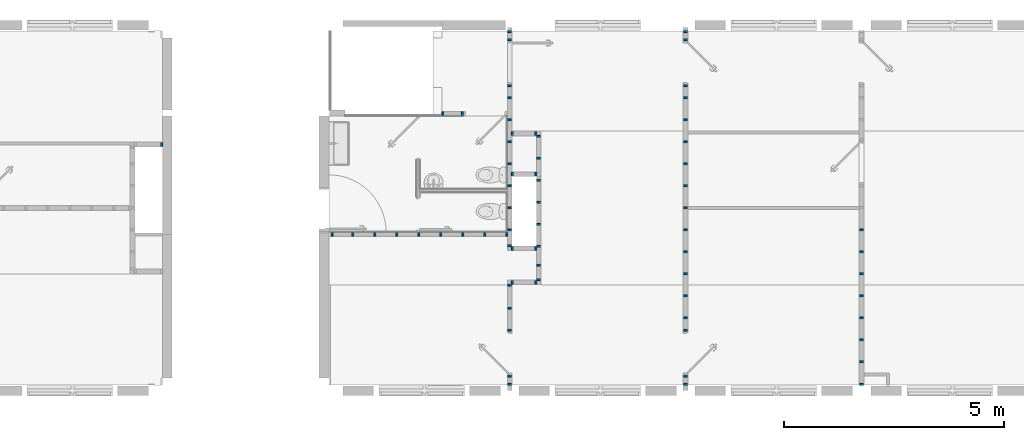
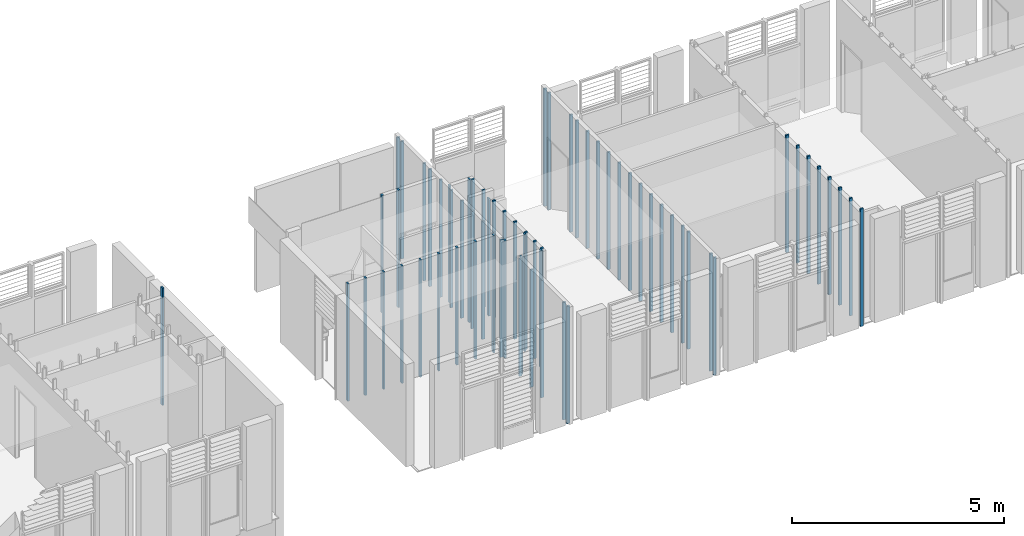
# One storey, part 2 of 20: 69 columns.
"""IFC2X3 building model written with IfcOpenShell, lengths in metres."""

from ifc_helpers import new_model, entity, si_unit, converted_unit, derived_unit, direction, frame, origin, origin_2d_with_axis, place, context, subcontext, project, spatial, rectangle, extrude, source, transform, mapped, material, type_object, type_shapes, element, save


model = new_model("IFC2X3")

# Units and contexts
model_context = context("Model", 3, precision=1e-05, world=origin(), true_north=direction((6.12303176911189e-17, 1.0)))
body_context = subcontext(model_context, "Body", "Model", "MODEL_VIEW")
ifc_project = project(units=[si_unit("LENGTHUNIT", "METRE"), si_unit("AREAUNIT", "SQUARE_METRE"), si_unit("VOLUMEUNIT", "CUBIC_METRE"), converted_unit("PLANEANGLEUNIT", "DEGREE", entity("IfcRatioMeasure", 0.0174532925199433), si_unit("PLANEANGLEUNIT", "RADIAN"), dimensions=[0, 0, 0, 0, 0, 0, 0]), si_unit("MASSUNIT", "GRAM", prefix="KILO"), derived_unit("MASSDENSITYUNIT", [(si_unit("MASSUNIT", "GRAM", prefix="KILO"), 1), (si_unit("LENGTHUNIT", "METRE"), -3)]), si_unit("TIMEUNIT", "SECOND"), si_unit("FREQUENCYUNIT", "HERTZ"), si_unit("THERMODYNAMICTEMPERATUREUNIT", "DEGREE_CELSIUS"), derived_unit("THERMALTRANSMITTANCEUNIT", [(si_unit("MASSUNIT", "GRAM", prefix="KILO"), 1), (si_unit("THERMODYNAMICTEMPERATUREUNIT", "KELVIN"), -1), (si_unit("TIMEUNIT", "SECOND"), -3)]), derived_unit("VOLUMETRICFLOWRATEUNIT", [(si_unit("LENGTHUNIT", "METRE"), 3), (si_unit("TIMEUNIT", "SECOND"), -1)]), si_unit("ELECTRICCURRENTUNIT", "AMPERE"), si_unit("ELECTRICVOLTAGEUNIT", "VOLT"), si_unit("POWERUNIT", "WATT"), si_unit("FORCEUNIT", "NEWTON", prefix="KILO"), si_unit("ILLUMINANCEUNIT", "LUX"), si_unit("LUMINOUSFLUXUNIT", "LUMEN"), si_unit("LUMINOUSINTENSITYUNIT", "CANDELA"), derived_unit("USERDEFINED", [(si_unit("MASSUNIT", "GRAM", prefix="KILO"), -1), (si_unit("LENGTHUNIT", "METRE"), -2), (si_unit("TIMEUNIT", "SECOND"), 3), (si_unit("LUMINOUSFLUXUNIT", "LUMEN"), 1)]), derived_unit("LINEARVELOCITYUNIT", [(si_unit("LENGTHUNIT", "METRE"), 1), (si_unit("TIMEUNIT", "SECOND"), -1)]), si_unit("PRESSUREUNIT", "PASCAL"), derived_unit("USERDEFINED", [(si_unit("LENGTHUNIT", "METRE"), -2), (si_unit("MASSUNIT", "GRAM", prefix="KILO"), 1), (si_unit("TIMEUNIT", "SECOND"), -2)])], contexts=[model_context])

# Site, building, storey
site_placement = place(None, origin())
site = spatial("IfcSite", under=ifc_project, at=site_placement, Name="Surface", CompositionType="ELEMENT")
building_placement = place(site_placement, origin())
building = spatial("IfcBuilding", under=site, at=building_placement, Name="ExPREF", CompositionType="ELEMENT")
storey_placement = place(building_placement, frame((0.0, 0.0, 4.27)))
storey = spatial("IfcBuildingStorey", under=building, at=storey_placement, Name="R+1", CompositionType="ELEMENT", Elevation=4.27)

# Columns
ifc_material_1 = material(Name="AA-bois poutres")
column_type_1 = type_object("IfcColumnType", Name="HEA160", PredefinedType="COLUMN")
shared_shape_1 = source(origin(), body_context, "Body", "SweptSolid", [
    extrude(rectangle(XDim=0.08, YDim=0.0449999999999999, at=origin_2d_with_axis()), frame((0.0, 0.0, 4.215), z_axis=(0.0, 0.0, 1.0), x_axis=(0.0, -1.0, 0.0)), (0.0, 0.0, 1.0), 3.385),
])
type_shapes(column_type_1, [shared_shape_1])
column_1_placement = place(storey_placement, frame((41.5772436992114, -187.766069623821, -4.27)))
element("IfcColumn", 1, at=column_1_placement, inside=storey, type_object=column_type_1, material=ifc_material_1, Name="poteau bois 8x4.5 cm:HEA160", ObjectType="HEA160", context=body_context, shape_type="MappedRepresentation", body=[
    mapped(shared_shape_1, transform((0.0, 0.0, 0.0), scale=1.0)),
])
ifc_material_2 = material(Name="AA-bois tasseau cloison")
column_type_2 = type_object("IfcColumnType", Name="HEA160", PredefinedType="COLUMN")
shared_shape_2 = source(origin(), body_context, "Body", "SweptSolid", [
    extrude(rectangle(XDim=0.08, YDim=0.0449999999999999, at=origin_2d_with_axis()), frame((0.0, 0.0, 4.215), z_axis=(0.0, 0.0, 1.0), x_axis=(0.0, -1.0, 0.0)), (0.0, 0.0, 1.0), 3.385),
])
type_shapes(column_type_2, [shared_shape_2])
for number, where, z_axis, x_axis, name in (
    (2, (49.4897436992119, -189.20806962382, -4.27), (0.0, 0.0, 1.0), (0.0, -1.0, 0.0), "poteau bois 8x4.5 cm:HEA160"),
    (3, (49.4897436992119, -188.70806962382, -4.27), (0.0, 0.0, 1.0), (0.0, -1.0, 0.0), "poteau bois 8x4.5 cm:HEA160"),
    (4, (49.4897436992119, -188.20806962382, -4.27), (0.0, 0.0, 1.0), (0.0, -1.0, 0.0), "poteau bois 8x4.5 cm:HEA160"),
    (5, (49.4897436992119, -187.70806962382, -4.27), (0.0, 0.0, 1.0), (0.0, -1.0, 0.0), "poteau bois 8x4.5 cm:HEA160"),
    (6, (49.4897436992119, -187.20806962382, -4.27), (0.0, 0.0, 1.0), (0.0, -1.0, 0.0), "poteau bois 8x4.5 cm:HEA160"),
    (7, (49.4897436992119, -186.70806962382, -4.27), (0.0, 0.0, 1.0), (0.0, -1.0, 0.0), "poteau bois 8x4.5 cm:HEA160"),
    (8, (49.4897436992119, -185.19898794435, -4.27), (0.0, 0.0, 1.0), (0.0, -1.0, 0.0), "poteau bois 8x4.5 cm:HEA160"),
    (9, (49.4897436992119, -186.428987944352, -4.27), (0.0, 0.0, 1.0), (0.0, -1.0, 0.0), "poteau bois 8x4.5 cm:HEA160"),
    (10, (49.4897436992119, -185.383987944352, -4.27), (0.0, 0.0, 1.0), (0.0, -1.0, 0.0), "poteau bois 8x4.5 cm:HEA160"),
    (11, (53.4897436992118, -189.20806962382, -4.27), (0.0, 0.0, 1.0), (0.0, -1.0, 0.0), "poteau bois 8x4.5 cm:HEA160"),
    (12, (53.4897436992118, -188.70806962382, -4.27), (0.0, 0.0, 1.0), (0.0, -1.0, 0.0), "poteau bois 8x4.5 cm:HEA160"),
    (13, (53.4897436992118, -188.20806962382, -4.27), (0.0, 0.0, 1.0), (0.0, -1.0, 0.0), "poteau bois 8x4.5 cm:HEA160"),
    (14, (53.4897436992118, -187.70806962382, -4.27), (0.0, 0.0, 1.0), (0.0, -1.0, 0.0), "poteau bois 8x4.5 cm:HEA160"),
    (15, (53.4897436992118, -187.20806962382, -4.27), (0.0, 0.0, 1.0), (0.0, -1.0, 0.0), "poteau bois 8x4.5 cm:HEA160"),
    (16, (53.4897436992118, -186.70806962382, -4.27), (0.0, 0.0, 1.0), (0.0, -1.0, 0.0), "poteau bois 8x4.5 cm:HEA160"),
    (17, (53.4897436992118, -185.19898794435, -4.27), (0.0, 0.0, 1.0), (0.0, -1.0, 0.0), "poteau bois 8x4.5 cm:HEA160"),
    (18, (53.4897436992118, -186.428987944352, -4.27), (0.0, 0.0, 1.0), (0.0, -1.0, 0.0), "poteau bois 8x4.5 cm:HEA160"),
    (19, (53.4897436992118, -185.383987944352, -4.27), (0.0, 0.0, 1.0), (0.0, -1.0, 0.0), "poteau bois 8x4.5 cm:HEA160"),
):
    element("IfcColumn", number, at=place(storey_placement, frame(where, z_axis=z_axis, x_axis=x_axis)), inside=storey, type_object=column_type_2, material=ifc_material_2, Name=name, ObjectType="HEA160", context=body_context, shape_type="MappedRepresentation", body=[
        mapped(shared_shape_2, transform((0.0, 0.0, 0.0), scale=1.0)),
    ])
column_type_3 = type_object("IfcColumnType", Name="HEA160", PredefinedType="COLUMN")
shared_shape_3 = source(origin(), body_context, "Body", "SweptSolid", [
    extrude(rectangle(XDim=0.08, YDim=0.0449999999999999, at=origin_2d_with_axis()), frame((0.0, 0.0, 4.215), z_axis=(0.0, 0.0, 1.0), x_axis=(0.0, -1.0, 0.0)), (0.0, 0.0, 1.0), 3.385),
])
type_shapes(column_type_3, [shared_shape_3])
column_2_placement = place(storey_placement, frame((49.4897436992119, -189.708069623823, -4.27), z_axis=(0.0, 0.0, 1.0), x_axis=(0.0, 1.0, 0.0)))
element("IfcColumn", 20, at=column_2_placement, inside=storey, type_object=column_type_3, material=ifc_material_2, Name="poteau bois 8x4.5 cm:HEA160", ObjectType="HEA160", context=body_context, shape_type="MappedRepresentation", body=[
    mapped(shared_shape_3, transform((0.0, 0.0, 0.0), scale=1.0)),
])
for number, where, name in (
    (21, (47.9722436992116, -187.066488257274, -4.27), "poteau bois 8x4.5 cm:HEA160"),
    (22, (48.4147436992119, -187.066488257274, -4.27), "poteau bois 8x4.5 cm:HEA160"),
):
    element("IfcColumn", number, at=place(storey_placement, frame(where)), inside=storey, type_object=column_type_3, material=ifc_material_2, Name=name, ObjectType="HEA160", context=body_context, shape_type="MappedRepresentation", body=[
        mapped(shared_shape_3, transform((0.0, 0.0, 0.0), scale=1.0)),
    ])
for number, where, z_axis, x_axis, name in (
    (23, (53.4897436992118, -193.217151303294, -4.27), (0.0, 0.0, 1.0), (0.0, 1.0, 0.0), "poteau bois 8x4.5 cm:HEA160"),
    (24, (53.4897436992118, -189.708069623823, -4.27), (0.0, 0.0, 1.0), (0.0, 1.0, 0.0), "poteau bois 8x4.5 cm:HEA160"),
    (25, (53.4897436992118, -190.208069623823, -4.27), (0.0, 0.0, 1.0), (0.0, 1.0, 0.0), "poteau bois 8x4.5 cm:HEA160"),
    (26, (53.4897436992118, -190.708069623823, -4.27), (0.0, 0.0, 1.0), (0.0, 1.0, 0.0), "poteau bois 8x4.5 cm:HEA160"),
    (27, (53.4897436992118, -191.208069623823, -4.27), (0.0, 0.0, 1.0), (0.0, 1.0, 0.0), "poteau bois 8x4.5 cm:HEA160"),
    (28, (53.4897436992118, -191.708069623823, -4.27), (0.0, 0.0, 1.0), (0.0, 1.0, 0.0), "poteau bois 8x4.5 cm:HEA160"),
    (29, (53.4897436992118, -191.987151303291, -4.27), (0.0, 0.0, 1.0), (0.0, 1.0, 0.0), "poteau bois 8x4.5 cm:HEA160"),
    (30, (53.4897436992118, -193.032151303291, -4.27), (0.0, 0.0, 1.0), (0.0, 1.0, 0.0), "poteau bois 8x4.5 cm:HEA160"),
):
    element("IfcColumn", number, at=place(storey_placement, frame(where, z_axis=z_axis, x_axis=x_axis)), inside=storey, type_object=column_type_3, material=ifc_material_2, Name=name, ObjectType="HEA160", context=body_context, shape_type="MappedRepresentation", body=[
        mapped(shared_shape_3, transform((0.0, 0.0, 0.0), scale=1.0)),
    ])
for number, where, name in (
    (31, (50.0872436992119, -190.900069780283, -4.27), "poteau bois 8x4.5 cm:HEA160"),
    (32, (50.0872436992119, -187.516069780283, -4.27), "poteau bois 8x4.5 cm:HEA160"),
    (33, (49.5522436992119, -187.516069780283, -4.27), "poteau bois 8x4.5 cm:HEA160"),
):
    element("IfcColumn", number, at=place(storey_placement, frame(where)), inside=storey, type_object=column_type_3, material=ifc_material_2, Name=name, ObjectType="HEA160", context=body_context, shape_type="MappedRepresentation", body=[
        mapped(shared_shape_3, transform((0.0, 0.0, 0.0), scale=1.0)),
    ])
for number, where, z_axis, x_axis, name in (
    (34, (50.1497436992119, -187.580569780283, -4.27), (0.0, 0.0, 1.0), (0.0, -1.0, 0.0), "poteau bois 8x4.5 cm:HEA160"),
    (35, (50.1497436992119, -188.080569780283, -4.27), (0.0, 0.0, 1.0), (0.0, -1.0, 0.0), "poteau bois 8x4.5 cm:HEA160"),
    (36, (50.1497436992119, -188.580569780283, -4.27), (0.0, 0.0, 1.0), (0.0, -1.0, 0.0), "poteau bois 8x4.5 cm:HEA160"),
    (37, (50.1497436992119, -189.080569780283, -4.27), (0.0, 0.0, 1.0), (0.0, -1.0, 0.0), "poteau bois 8x4.5 cm:HEA160"),
    (38, (50.1497436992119, -189.580569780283, -4.27), (0.0, 0.0, 1.0), (0.0, -1.0, 0.0), "poteau bois 8x4.5 cm:HEA160"),
    (39, (50.1497436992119, -190.080569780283, -4.27), (0.0, 0.0, 1.0), (0.0, -1.0, 0.0), "poteau bois 8x4.5 cm:HEA160"),
    (40, (50.1497436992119, -190.50556962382, -4.27), (0.0, 0.0, 1.0), (0.0, -1.0, 0.0), "poteau bois 8x4.5 cm:HEA160"),
):
    element("IfcColumn", number, at=place(storey_placement, frame(where, z_axis=z_axis, x_axis=x_axis)), inside=storey, type_object=column_type_3, material=ifc_material_2, Name=name, ObjectType="HEA160", context=body_context, shape_type="MappedRepresentation", body=[
        mapped(shared_shape_3, transform((0.0, 0.0, 0.0), scale=1.0)),
    ])
for number, where, name in (
    (41, (50.0872436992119, -188.438069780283, -4.27), "poteau bois 8x4.5 cm:HEA160"),
    (42, (49.5522436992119, -188.438069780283, -4.27), "poteau bois 8x4.5 cm:HEA160"),
    (43, (49.5522436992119, -190.128069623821, -4.27), "poteau bois 8x4.5 cm:HEA160"),
):
    element("IfcColumn", number, at=place(storey_placement, frame(where)), inside=storey, type_object=column_type_3, material=ifc_material_2, Name=name, ObjectType="HEA160", context=body_context, shape_type="MappedRepresentation", body=[
        mapped(shared_shape_3, transform((0.0, 0.0, 0.0), scale=1.0)),
    ])
for number, where, z_axis, x_axis, name in (
    (44, (49.4897436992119, -190.962569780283, -4.27), (0.0, 0.0, 1.0), (0.0, 1.0, 0.0), "poteau bois 8x4.5 cm:HEA160"),
    (45, (49.4897436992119, -190.065569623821, -4.27), (0.0, 0.0, 1.0), (0.0, 1.0, 0.0), "poteau bois 8x4.5 cm:HEA160"),
):
    element("IfcColumn", number, at=place(storey_placement, frame(where, z_axis=z_axis, x_axis=x_axis)), inside=storey, type_object=column_type_3, material=ifc_material_2, Name=name, ObjectType="HEA160", context=body_context, shape_type="MappedRepresentation", body=[
        mapped(shared_shape_3, transform((0.0, 0.0, 0.0), scale=1.0)),
    ])
column_3_placement = place(storey_placement, frame((50.0872436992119, -190.128069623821, -4.27)))
element("IfcColumn", 46, at=column_3_placement, inside=storey, type_object=column_type_3, material=ifc_material_2, Name="poteau bois 8x4.5 cm:HEA160", ObjectType="HEA160", context=body_context, shape_type="MappedRepresentation", body=[
    mapped(shared_shape_3, transform((0.0, 0.0, 0.0), scale=1.0)),
])
column_4_placement = place(storey_placement, frame((50.1497436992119, -190.837569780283, -4.27), z_axis=(0.0, 0.0, 1.0), x_axis=(0.0, -1.0, 0.0)))
element("IfcColumn", 47, at=column_4_placement, inside=storey, type_object=column_type_3, material=ifc_material_2, Name="poteau bois 8x4.5 cm:HEA160", ObjectType="HEA160", context=body_context, shape_type="MappedRepresentation", body=[
    mapped(shared_shape_3, transform((0.0, 0.0, 0.0), scale=1.0)),
])
column_5_placement = place(storey_placement, frame((49.5522436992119, -190.900069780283, -4.27)))
element("IfcColumn", 48, at=column_5_placement, inside=storey, type_object=column_type_3, material=ifc_material_2, Name="poteau bois 8x4.5 cm:HEA160", ObjectType="HEA160", context=body_context, shape_type="MappedRepresentation", body=[
    mapped(shared_shape_3, transform((0.0, 0.0, 0.0), scale=1.0)),
])
for number, where, z_axis, x_axis, name in (
    (49, (49.4897436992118, -193.217151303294, -4.27), (0.0, 0.0, 1.0), (0.0, 1.0, 0.0), "poteau bois 8x4.5 cm:HEA160"),
    (50, (49.4897436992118, -191.987151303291, -4.27), (0.0, 0.0, 1.0), (0.0, 1.0, 0.0), "poteau bois 8x4.5 cm:HEA160"),
    (51, (49.4897436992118, -193.032151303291, -4.27), (0.0, 0.0, 1.0), (0.0, 1.0, 0.0), "poteau bois 8x4.5 cm:HEA160"),
    (52, (49.4897436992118, -191.487151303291, -4.27), (0.0, 0.0, 1.0), (0.0, 1.0, 0.0), "poteau bois 8x4.5 cm:HEA160"),
    (53, (57.4897436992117, -193.217151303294, -4.27), (0.0, 0.0, 1.0), (0.0, 1.0, 0.0), "poteau bois 8x4.5 cm:HEA160"),
    (54, (57.4897436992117, -189.708069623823, -4.27), (0.0, 0.0, 1.0), (0.0, 1.0, 0.0), "poteau bois 8x4.5 cm:HEA160"),
    (55, (57.4897436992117, -190.208069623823, -4.27), (0.0, 0.0, 1.0), (0.0, 1.0, 0.0), "poteau bois 8x4.5 cm:HEA160"),
    (56, (57.4897436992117, -190.708069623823, -4.27), (0.0, 0.0, 1.0), (0.0, 1.0, 0.0), "poteau bois 8x4.5 cm:HEA160"),
    (57, (57.4897436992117, -191.208069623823, -4.27), (0.0, 0.0, 1.0), (0.0, 1.0, 0.0), "poteau bois 8x4.5 cm:HEA160"),
    (58, (57.4897436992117, -191.708069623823, -4.27), (0.0, 0.0, 1.0), (0.0, 1.0, 0.0), "poteau bois 8x4.5 cm:HEA160"),
    (59, (57.4897436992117, -192.208069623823, -4.27), (0.0, 0.0, 1.0), (0.0, 1.0, 0.0), "poteau bois 8x4.5 cm:HEA160"),
    (60, (57.4897436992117, -192.708069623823, -4.27), (0.0, 0.0, 1.0), (0.0, 1.0, 0.0), "poteau bois 8x4.5 cm:HEA160"),
):
    element("IfcColumn", number, at=place(storey_placement, frame(where, z_axis=z_axis, x_axis=x_axis)), inside=storey, type_object=column_type_3, material=ifc_material_2, Name=name, ObjectType="HEA160", context=body_context, shape_type="MappedRepresentation", body=[
        mapped(shared_shape_3, transform((0.0, 0.0, 0.0), scale=1.0)),
    ])
for number, where, name in (
    (61, (49.4272436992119, -189.80806962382, -4.27), "poteau bois 8x4.5 cm:HEA160"),
    (62, (48.9272436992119, -189.80806962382, -4.27), "poteau bois 8x4.5 cm:HEA160"),
    (63, (48.4272436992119, -189.80806962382, -4.27), "poteau bois 8x4.5 cm:HEA160"),
    (64, (47.9272436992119, -189.80806962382, -4.27), "poteau bois 8x4.5 cm:HEA160"),
    (65, (47.4272436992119, -189.80806962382, -4.27), "poteau bois 8x4.5 cm:HEA160"),
    (66, (46.9272436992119, -189.80806962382, -4.27), "poteau bois 8x4.5 cm:HEA160"),
    (67, (46.4272436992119, -189.80806962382, -4.27), "poteau bois 8x4.5 cm:HEA160"),
    (68, (45.9272436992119, -189.80806962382, -4.27), "poteau bois 8x4.5 cm:HEA160"),
    (69, (45.4522436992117, -189.80806962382, -4.27), "poteau bois 8x4.5 cm:HEA160"),
):
    element("IfcColumn", number, at=place(storey_placement, frame(where)), inside=storey, type_object=column_type_3, material=ifc_material_2, Name=name, ObjectType="HEA160", context=body_context, shape_type="MappedRepresentation", body=[
        mapped(shared_shape_3, transform((0.0, 0.0, 0.0), scale=1.0)),
    ])

save(model, "model.ifc")
